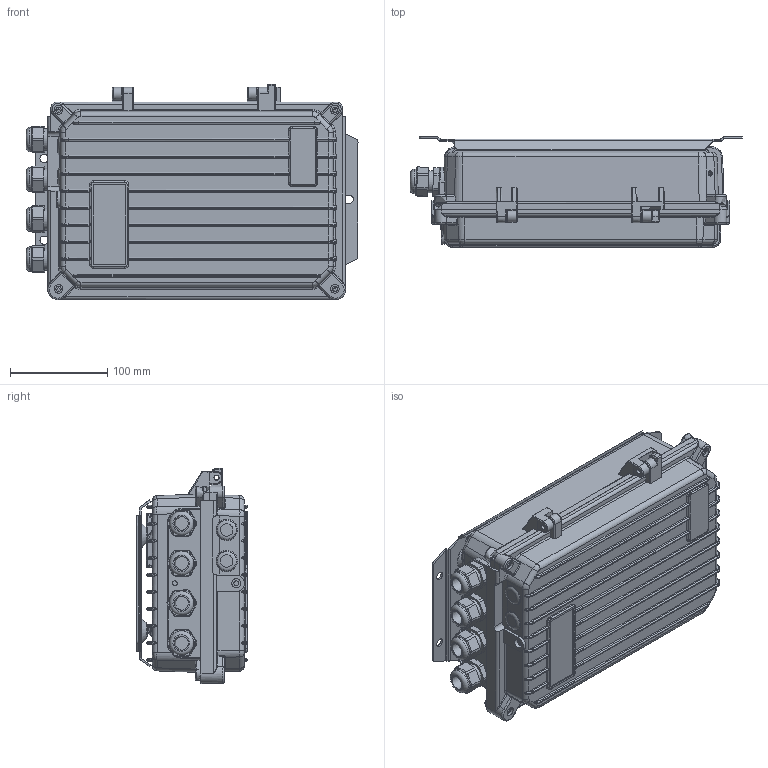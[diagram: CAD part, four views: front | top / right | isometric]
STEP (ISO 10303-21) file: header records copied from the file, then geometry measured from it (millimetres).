
FILE_DESCRIPTION(/* description */ ('Alibre Inc.'),/* implementation_level */ '2;1');
FILE_NAME(/* name */ 'export0',/* time_stamp */ '2014-05-13T08:18:21+02:00',/* author */ (''),/* organization */ (''),/* preprocessor_version */ 'ST-DEVELOPER v14',/* originating_system */ 'Alibre',/* authorisation */ '');
FILE_SCHEMA (('AUTOMOTIVE_DESIGN'));
Length unit declared in the file: millimetre
Bounding box: 341.24 x 113.41 x 221 mm (x, y, z)
Volume: 433732.6 mm3; surface area: 619838.7 mm2
Topology: 14 solids, 24 shells, 1714 faces, 4307 edges, 2670 vertices
Faces by surface type: plane 682, cylinder 632, bspline 226, torus 101, cone 67, sphere 6
Full cylindrical faces by diameter (mm): 2.459 x6, 3.3 x4, 4 x2, 4.5 x2, 5 x4, 5.2 x2, 5.3 x4, 6.3 x1, 6.5 x4, 8.5 x2, 9 x9, 9.4 x1, 10.5 x1, 14.4 x4, 19.5 x2, 20.6 x4, 20.676 x2, 22.4 x8, 25 x4
Entity records: 49592 total; most frequent: CARTESIAN_POINT 14065, ORIENTED_EDGE 7462, DIRECTION 6892, EDGE_CURVE 3731, AXIS2_PLACEMENT_3D 2870, VERTEX_POINT 2398, VECTOR 1814, LINE 1814
